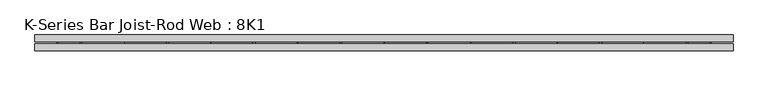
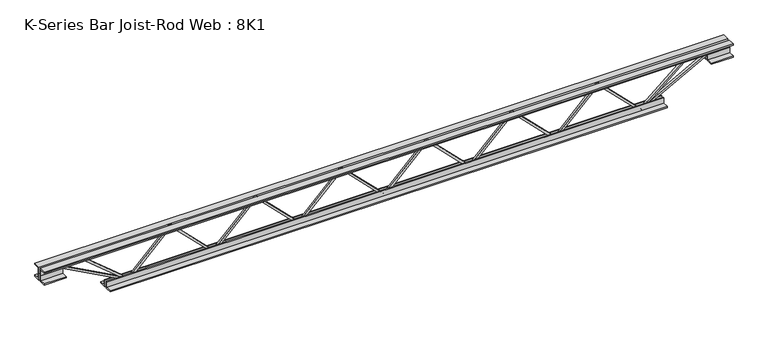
"""IFC4 building model written with IfcOpenShell, lengths in millimetres: beam geometry, K-Series Bar Joist-Rod Web : 8K1."""

from ifc_helpers import new_model, si_unit, frame, origin, place, context, project, spatial, polyline, outline, extrude, source, transform, mapped, element, save


def k_series_bar_joist_rod_web_8k1_325491ab(model_context):
    return source(origin(), model_context, "Body", "SweptSolid", [
        extrude(outline(polyline([(-90.4875, 394.3021306), (-100.0125, 394.3021306), (-100.0125, 399.4476203), (90.4875, 590.2486857), (90.4875, 592.6577063), (-100.0125, 783.4587716), (-100.0125, 788.6042613), (-90.4875, 788.6042613), (-90.4875, 787.399751), (100.0125, 596.5986857), (100.0125, 586.3077063), (-90.4875, 395.506641), (-90.4875, 394.3021306)])), frame((0.0, -4.7625, 0.0), z_axis=(0.0, 1.0, 0.0), x_axis=(0.0, 0.0, 1.0)), (0.0, 0.0, 1.0), 9.525),
        extrude(outline(polyline([(-90.4875, 0.0), (-100.0125, 0.0), (-100.0125, 5.1454897), (90.4875, 195.946555), (90.4875, 198.3555756), (-100.0125, 389.156641), (-100.0125, 394.3021306), (-90.4875, 394.3021306), (-90.4875, 393.0976203), (100.0125, 202.296555), (100.0125, 192.0055756), (-90.4875, 1.2045103), (-90.4875, 0.0)])), frame((0.0, -4.7625, 0.0), z_axis=(0.0, 1.0, 0.0), x_axis=(0.0, 0.0, 1.0)), (0.0, 0.0, 1.0), 9.525),
        extrude(outline(polyline([(-90.4875, -394.3021306), (-100.0125, -394.3021306), (-100.0125, -389.156641), (90.4875, -198.3555756), (90.4875, -195.946555), (-100.0125, -5.1454897), (-100.0125, 0.0), (-90.4875, 0.0), (-90.4875, -1.2045103), (100.0125, -192.0055756), (100.0125, -202.296555), (-90.4875, -393.0976203), (-90.4875, -394.3021306)])), frame((0.0, -4.7625, 0.0), z_axis=(0.0, 1.0, 0.0), x_axis=(0.0, 0.0, 1.0)), (0.0, 0.0, 1.0), 9.525),
        extrude(outline(polyline([(-90.4875, -788.6042613), (-100.0125, -788.6042613), (-100.0125, -783.4587716), (90.4875, -592.6577063), (90.4875, -590.2486857), (-100.0125, -399.4476203), (-100.0125, -394.3021306), (-90.4875, -394.3021306), (-90.4875, -395.506641), (100.0125, -586.3077063), (100.0125, -596.5986857), (-90.4875, -787.399751), (-90.4875, -788.6042613)])), frame((0.0, -4.7625, 0.0), z_axis=(0.0, 1.0, 0.0), x_axis=(0.0, 0.0, 1.0)), (0.0, 0.0, 1.0), 9.525),
        extrude(outline(polyline([(-90.4875, 788.6042613), (-100.0125, 788.6042613), (-100.0125, 793.749751), (90.4875, 984.5508163), (90.4875, 986.9598369), (-100.0125, 1177.7609023), (-100.0125, 1182.9063919), (-90.4875, 1182.9063919), (-90.4875, 1181.7018816), (100.0125, 990.9008163), (100.0125, 980.6098369), (-90.4875, 789.8087716), (-90.4875, 788.6042613)])), frame((0.0, -4.7625, 0.0), z_axis=(0.0, 1.0, 0.0), x_axis=(0.0, 0.0, 1.0)), (0.0, 0.0, 1.0), 9.525),
        extrude(outline(polyline([(-90.4875, -1182.9063919), (-100.0125, -1182.9063919), (-100.0125, -1177.7609023), (90.4875, -986.9598369), (90.4875, -984.5508163), (-100.0125, -793.749751), (-100.0125, -788.6042613), (-90.4875, -788.6042613), (-90.4875, -789.8087716), (100.0125, -980.6098369), (100.0125, -990.9008163), (-90.4875, -1181.7018816), (-90.4875, -1182.9063919)])), frame((0.0, -4.7625, 0.0), z_axis=(0.0, 1.0, 0.0), x_axis=(0.0, 0.0, 1.0)), (0.0, 0.0, 1.0), 9.525),
        extrude(outline(polyline([(4.7625, 101.6), (36.5125, 101.6), (36.5125, 95.25), (11.1125, 95.25), (11.1125, 69.85), (4.7625, 69.85), (4.7625, 101.6)])), frame((-1589.3063919, 0.0, 0.0), z_axis=(1.0, 0.0, 0.0), x_axis=(0.0, 1.0, 0.0)), (0.0, 0.0, 1.0), 3178.6127839),
        extrude(outline(polyline([(-4.7625, 101.6), (-4.7625, 69.85), (-11.1125, 69.85), (-11.1125, 95.25), (-36.5125, 95.25), (-36.5125, 101.6), (-4.7625, 101.6)])), frame((-1589.3063919, 0.0, 0.0), z_axis=(1.0, 0.0, 0.0), x_axis=(0.0, 1.0, 0.0)), (0.0, 0.0, 1.0), 3178.6127839),
        extrude(outline(polyline([(-4.7625, 38.1), (-36.5125, 38.1), (-36.5125, 44.45), (-11.1125, 44.45), (-11.1125, 69.85), (-4.7625, 69.85), (-4.7625, 38.1)])), frame((-1589.3063919, 0.0, 0.0), z_axis=(1.0, 0.0, 0.0), x_axis=(0.0, 1.0, 0.0)), (0.0, 0.0, 1.0), 101.6),
        extrude(outline(polyline([(36.5125, 38.1), (4.7625, 38.1), (4.7625, 69.85), (11.1125, 69.85), (11.1125, 44.45), (36.5125, 44.45), (36.5125, 38.1)])), frame((-1589.3063919, 0.0, 0.0), z_axis=(1.0, 0.0, 0.0), x_axis=(0.0, 1.0, 0.0)), (0.0, 0.0, 1.0), 101.6),
        extrude(outline(polyline([(4.7625, 38.1), (4.7625, 69.85), (11.1125, 69.85), (11.1125, 44.45), (36.5125, 44.45), (36.5125, 38.1), (4.7625, 38.1)])), frame((1487.7063919, 0.0, 0.0), z_axis=(1.0, 0.0, 0.0), x_axis=(0.0, 1.0, 0.0)), (0.0, 0.0, 1.0), 101.6),
        extrude(outline(polyline([(-4.7625, 38.1), (-36.5125, 38.1), (-36.5125, 44.45), (-11.1125, 44.45), (-11.1125, 69.85), (-4.7625, 69.85), (-4.7625, 38.1)])), frame((1487.7063919, 0.0, 0.0), z_axis=(1.0, 0.0, 0.0), x_axis=(0.0, 1.0, 0.0)), (0.0, 0.0, 1.0), 101.6),
        extrude(outline(polyline([(4.7625, -101.6), (4.7625, -69.85), (11.1125, -69.85), (11.1125, -95.25), (36.5125, -95.25), (36.5125, -101.6), (4.7625, -101.6)])), frame((-1284.5063919, 0.0, 0.0), z_axis=(1.0, 0.0, 0.0), x_axis=(0.0, 1.0, 0.0)), (0.0, 0.0, 1.0), 2569.0127839),
        extrude(outline(polyline([(-4.7625, -101.6), (-36.5125, -101.6), (-36.5125, -95.25), (-11.1125, -95.25), (-11.1125, -69.85), (-4.7625, -69.85), (-4.7625, -101.6)])), frame((-1284.5063919, 0.0, 0.0), z_axis=(1.0, 0.0, 0.0), x_axis=(0.0, 1.0, 0.0)), (0.0, 0.0, 1.0), 2569.0127839),
        extrude(outline(polyline([(0.0, -9.525), (0.0, 0.0), (346.6425392, 0.0), (346.6425392, -9.525), (0.0, -9.525)])), frame((-1489.9746904, 4.7625, 65.662372), z_axis=(0.47628314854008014, 0.0, 0.8792919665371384), x_axis=(0.8792919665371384, 0.0, -0.47628314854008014)), (0.0, 0.0, 1.0), 9.525),
        extrude(outline(polyline([(0.0, -9.525), (0.0, 0.0), (257.1508363, 0.0), (257.1508363, -9.525), (0.0, -9.525)])), frame((-1383.115152, 4.7625, 66.1987113), z_axis=(0.6420356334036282, 0.0, 0.7666747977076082), x_axis=(0.7666747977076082, 0.0, -0.6420356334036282)), (0.0, 0.0, 1.0), 9.525),
        extrude(outline(polyline([(0.0, -9.525), (0.0, 0.0), (346.6425392, 0.0), (346.6425392, -9.525), (0.0, -9.525)])), frame((1489.9746904, -4.7625, 65.662372), z_axis=(-0.4762831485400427, 0.0, 0.8792919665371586), x_axis=(-0.8792919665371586, 0.0, -0.4762831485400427)), (0.0, 0.0, 1.0), 9.525),
        extrude(outline(polyline([(0.0, -9.525), (0.0, 0.0), (257.1508363, 0.0), (257.1508363, -9.525), (0.0, -9.525)])), frame((1383.115152, -4.7625, 66.1987113), z_axis=(-0.6420356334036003, 0.0, 0.7666747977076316), x_axis=(-0.7666747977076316, 0.0, -0.6420356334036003)), (0.0, 0.0, 1.0), 9.525),
    ])


if __name__ == "__main__":
    model = new_model("IFC4")
    model_context = context("Model", 3, world=origin())
    ifc_project = project(units=[si_unit("LENGTHUNIT", "METRE", prefix="MILLI")], contexts=[model_context])
    site = spatial("IfcSite", under=ifc_project)
    building = spatial("IfcBuilding", under=site)
    placement = place(None, origin())
    k_series_bar_joist_rod_web_8k1_shape = k_series_bar_joist_rod_web_8k1_325491ab(model_context)
    element("IfcBeam", 1, ObjectType="K-Series Bar Joist-Rod Web : 8K1", at=placement, inside=building, context=model_context, shape_type="MappedRepresentation", body=[
        mapped(k_series_bar_joist_rod_web_8k1_shape, transform((0.0, 0.0, 0.0), x_axis=(1.0, 0.0, 0.0), y_axis=(0.0, 1.0, 0.0), z_axis=(0.0, 0.0, 1.0))),
    ])
    save(model, "model.ifc")
